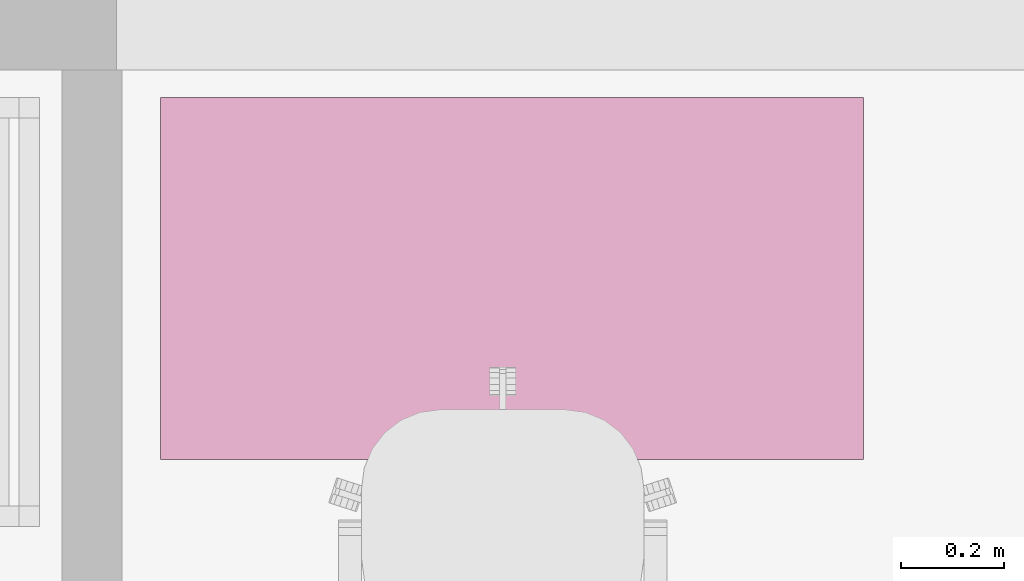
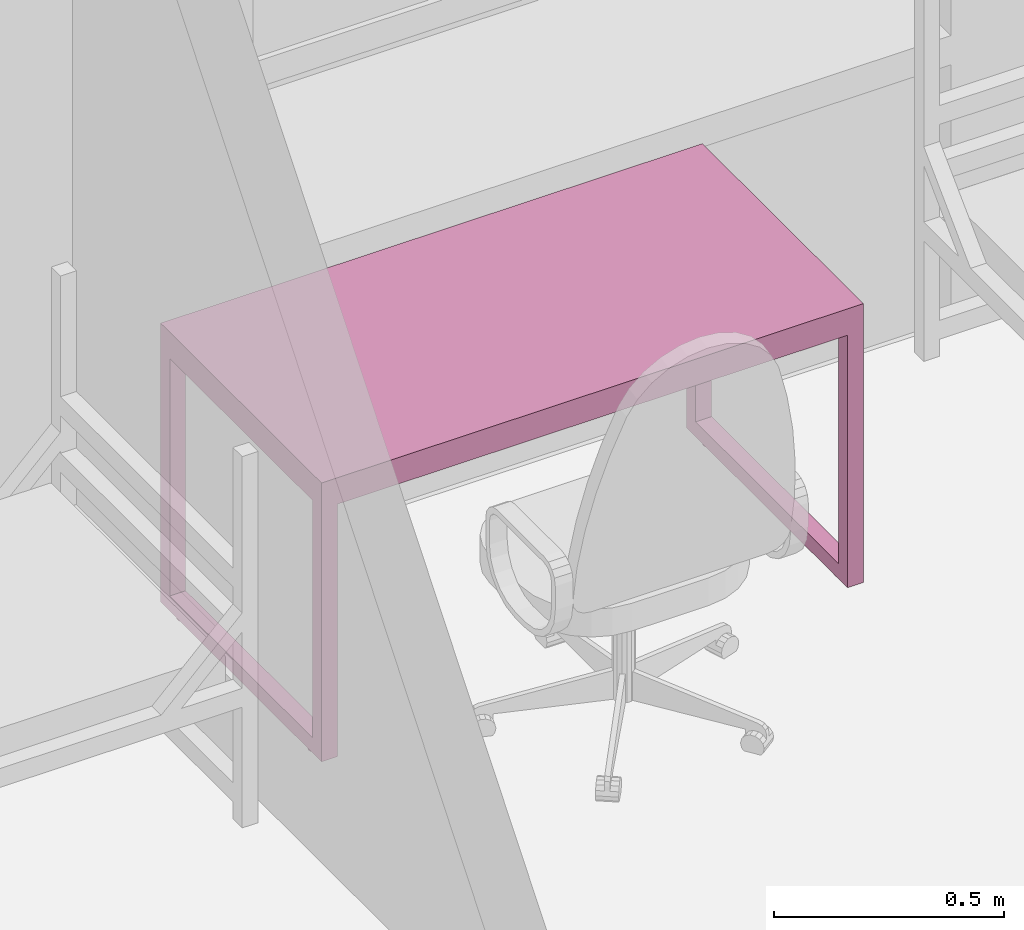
# One storey, part 45 of 46: 1 furnishing.
"""IFC2X3 building model written with IfcOpenShell, lengths in millimetres."""

from ifc_helpers import new_model, entity, si_unit, converted_unit, derived_unit, direction, frame, origin, place, context, subcontext, project, spatial, faceted_brep, source, transform, mapped, material, material_list, type_object, type_shapes, element, save


model = new_model("IFC2X3")

# Units and contexts
model_context = context("Model", 3, precision=0.01, world=origin(), true_north=direction((6.12303176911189e-17, 1.0)))
body_context = subcontext(model_context, "Body", "Model", "MODEL_VIEW")
ifc_project = project(units=[si_unit("LENGTHUNIT", "METRE", prefix="MILLI"), si_unit("AREAUNIT", "SQUARE_METRE"), si_unit("VOLUMEUNIT", "CUBIC_METRE"), converted_unit("PLANEANGLEUNIT", "DEGREE", entity("IfcRatioMeasure", 0.0174532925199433), si_unit("PLANEANGLEUNIT", "RADIAN"), dimensions=[0, 0, 0, 0, 0, 0, 0]), si_unit("MASSUNIT", "GRAM", prefix="KILO"), derived_unit("MASSDENSITYUNIT", [(si_unit("MASSUNIT", "GRAM", prefix="KILO"), 1), (si_unit("LENGTHUNIT", "METRE"), -3)]), si_unit("TIMEUNIT", "SECOND"), si_unit("FREQUENCYUNIT", "HERTZ"), si_unit("THERMODYNAMICTEMPERATUREUNIT", "DEGREE_CELSIUS"), derived_unit("THERMALTRANSMITTANCEUNIT", [(si_unit("MASSUNIT", "GRAM", prefix="KILO"), 1), (si_unit("THERMODYNAMICTEMPERATUREUNIT", "KELVIN"), -1), (si_unit("TIMEUNIT", "SECOND"), -3)]), derived_unit("VOLUMETRICFLOWRATEUNIT", [(si_unit("LENGTHUNIT", "METRE"), 3), (si_unit("TIMEUNIT", "SECOND"), -1)]), si_unit("ELECTRICCURRENTUNIT", "AMPERE"), si_unit("ELECTRICVOLTAGEUNIT", "VOLT"), si_unit("POWERUNIT", "WATT"), si_unit("FORCEUNIT", "NEWTON", prefix="KILO"), si_unit("ILLUMINANCEUNIT", "LUX"), si_unit("LUMINOUSFLUXUNIT", "LUMEN"), si_unit("LUMINOUSINTENSITYUNIT", "CANDELA"), derived_unit("USERDEFINED", [(si_unit("MASSUNIT", "GRAM", prefix="KILO"), -1), (si_unit("LENGTHUNIT", "METRE"), -2), (si_unit("TIMEUNIT", "SECOND"), 3), (si_unit("LUMINOUSFLUXUNIT", "LUMEN"), 1)]), derived_unit("LINEARVELOCITYUNIT", [(si_unit("LENGTHUNIT", "METRE"), 1), (si_unit("TIMEUNIT", "SECOND"), -1)]), si_unit("PRESSUREUNIT", "PASCAL"), derived_unit("USERDEFINED", [(si_unit("LENGTHUNIT", "METRE"), -2), (si_unit("MASSUNIT", "GRAM", prefix="KILO"), 1), (si_unit("TIMEUNIT", "SECOND"), -2)]), derived_unit("LINEARFORCEUNIT", [(si_unit("MASSUNIT", "GRAM", prefix="KILO"), 1), (si_unit("LENGTHUNIT", "METRE"), 1), (si_unit("TIMEUNIT", "SECOND"), -2), (si_unit("LENGTHUNIT", "METRE"), -1)]), derived_unit("PLANARFORCEUNIT", [(si_unit("MASSUNIT", "GRAM", prefix="KILO"), 1), (si_unit("LENGTHUNIT", "METRE"), 1), (si_unit("TIMEUNIT", "SECOND"), -2), (si_unit("LENGTHUNIT", "METRE"), -2)])], contexts=[model_context])

# Site, building, storey, space
site_placement = place(None, origin())
site = spatial("IfcSite", under=ifc_project, at=site_placement, Name="Default", CompositionType="ELEMENT")
building_placement = place(site_placement, origin())
building = spatial("IfcBuilding", under=site, at=building_placement, Name="SMA ARH", CompositionType="ELEMENT")
storey_placement = place(building_placement, frame((0.0, 0.0, 9910.0)))
storey = spatial("IfcBuildingStorey", under=building, at=storey_placement, Name="4 Korrus", CompositionType="ELEMENT", Elevation=9909.9999999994)
space_placement = place(storey_placement, origin())
space = spatial("IfcSpace", under=storey, at=space_placement, Name="4-31", CompositionType="ELEMENT", InteriorOrExteriorSpace="INTERNAL")

# Furnishing
ifc_material = material(Name="<Unnamed>")
ifc_material_list = material_list([ifc_material, ifc_material])
furniture_type = type_object("IfcFurnitureType", Name="kirjutuslaud 1360x700mm:kirjutuslaud 1360x700mm", material=ifc_material_list)
shared_shape = source(origin(), body_context, "Body", "Brep", [
    faceted_brep([(680.0, 350.0, 720.0), (680.0, 350.0, 750.0), (680.0, -350.0, 750.0), (680.0, -350.0, 720.0), (-680.0, 350.0, 720.0), (-680.0, -350.0, 720.0), (-680.0, -350.0, 750.0), (-680.0, 350.0, 750.0)], [[[0, 1, 2, 3]], [[4, 5, 6, 7]], [[3, 5, 4, 0]], [[2, 6, 5, 3]], [[1, 7, 6, 2]], [[0, 4, 7, 1]]]),
    faceted_brep([(-640.0, 310.0, 680.0), (-640.0, 310.0, 720.0), (-640.0, -310.0, 720.0), (-640.0, -310.0, 680.0), (-680.0, 350.0, 720.0), (-680.0, 350.0, 10.0), (-680.0, -350.0, 10.0), (-680.0, -350.0, 720.0), (-680.0, -310.0, 680.0), (-680.0, -310.0, 50.0), (-680.0, 310.0, 50.0), (-680.0, 310.0, 680.0), (680.0, 350.0, 720.0), (680.0, 350.0, 10.0), (640.0, 350.0, 10.0), (640.0, 350.0, 680.0), (-640.0, 350.0, 680.0), (-640.0, 350.0, 10.0), (-640.0, -350.0, 10.0), (-640.0, -350.0, 680.0), (640.0, -350.0, 680.0), (640.0, -350.0, 10.0), (680.0, -350.0, 10.0), (680.0, -350.0, 720.0), (640.0, 310.0, 720.0), (640.0, -310.0, 720.0), (-640.0, -310.0, 50.0), (-640.0, 310.0, 50.0), (640.0, -310.0, 680.0), (640.0, 310.0, 680.0), (680.0, -310.0, 680.0), (680.0, 310.0, 680.0), (680.0, 310.0, 50.0), (680.0, -310.0, 50.0), (640.0, -310.0, 50.0), (640.0, 310.0, 50.0)], [[[0, 1, 2, 3]], [[4, 5, 6, 7], [8, 9, 10, 11]], [[4, 12, 13, 14, 15, 16, 17, 5]], [[18, 6, 5, 17]], [[6, 18, 19, 20, 21, 22, 23, 7]], [[2, 1, 24, 25], [23, 12, 4, 7]], [[26, 9, 8, 3]], [[27, 10, 9, 26]], [[0, 11, 10, 27]], [[3, 8, 11, 0]], [[28, 20, 19, 3]], [[25, 28, 3, 2]], [[1, 0, 29, 24]], [[12, 23, 22, 13], [30, 31, 32, 33]], [[21, 20, 28, 34, 35, 29, 15, 14]], [[22, 21, 14, 13]], [[33, 34, 28, 30]], [[32, 35, 34, 33]], [[31, 29, 35, 32]], [[30, 28, 29, 31]], [[28, 25, 24, 29]], [[15, 29, 0, 16]], [[17, 16, 0, 27, 26, 3, 19, 18]]], outer=[[True], [True, False], [True], [True], [True], [False, True], [True], [True], [True], [True], [True], [True], [True], [True, False], [True], [True], [True], [True], [True], [True], [True], [True], [True]]),
    faceted_brep([(-655.964885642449, 270.466136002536, 0.0), (-659.847171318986, 269.955023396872, 0.0), (-663.729456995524, 270.466136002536, 0.0), (-667.347171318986, 271.964642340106, 0.0), (-670.453773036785, 274.348421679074, 0.0), (-672.837552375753, 277.455023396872, 0.0), (-674.336058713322, 281.072737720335, 0.0), (-674.847171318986, 284.955023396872, 0.0), (-674.336058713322, 288.83730907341, 0.0), (-672.837552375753, 292.455023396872, 0.0), (-670.453773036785, 295.561625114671, 0.0), (-667.347171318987, 297.945404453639, 0.0), (-663.729456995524, 299.443910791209, 0.0), (-659.847171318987, 299.955023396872, 0.0), (-655.964885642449, 299.443910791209, 0.0), (-652.347171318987, 297.945404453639, 0.0), (-649.240569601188, 295.561625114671, 0.0), (-646.85679026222, 292.455023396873, 0.0), (-645.35828392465, 288.83730907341, 0.0), (-644.847171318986, 284.955023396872, 0.0), (-645.35828392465, 281.072737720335, 0.0), (-646.85679026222, 277.455023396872, 0.0), (-649.240569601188, 274.348421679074, 0.0), (-652.347171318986, 271.964642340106, 0.0), (-649.240569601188, 295.561625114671, 10.0), (-652.347171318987, 297.945404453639, 10.0), (-655.964885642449, 299.443910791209, 10.0), (-659.847171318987, 299.955023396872, 10.0), (-663.729456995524, 299.443910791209, 10.0), (-667.347171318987, 297.945404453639, 10.0), (-670.453773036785, 295.561625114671, 10.0), (-672.837552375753, 292.455023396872, 10.0), (-674.336058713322, 288.83730907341, 10.0), (-674.847171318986, 284.955023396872, 10.0), (-674.336058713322, 281.072737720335, 10.0), (-672.837552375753, 277.455023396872, 10.0), (-670.453773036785, 274.348421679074, 10.0), (-667.347171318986, 271.964642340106, 10.0), (-663.729456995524, 270.466136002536, 10.0), (-659.847171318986, 269.955023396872, 10.0), (-655.964885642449, 270.466136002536, 10.0), (-652.347171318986, 271.964642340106, 10.0), (-649.240569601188, 274.348421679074, 10.0), (-646.85679026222, 277.455023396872, 10.0), (-645.35828392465, 281.072737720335, 10.0), (-644.847171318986, 284.955023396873, 10.0), (-645.35828392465, 288.83730907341, 10.0), (-646.85679026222, 292.455023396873, 10.0)], [[[0, 1, 2, 3, 4, 5, 6, 7, 8, 9, 10, 11, 12, 13, 14, 15, 16, 17, 18, 19, 20, 21, 22, 23]], [[24, 25, 26, 27, 28, 29, 30, 31, 32, 33, 34, 35, 36, 37, 38, 39, 40, 41, 42, 43, 44, 45, 46, 47]], [[7, 33, 32, 8]], [[8, 32, 31, 9]], [[11, 10, 30, 29]], [[30, 10, 9, 31]], [[12, 11, 29, 28]], [[12, 28, 27, 13]], [[13, 27, 26, 14]], [[14, 26, 25, 15]], [[17, 16, 24, 47]], [[24, 16, 15, 25]], [[18, 17, 47, 46]], [[18, 46, 45, 19]], [[19, 45, 44, 20]], [[20, 44, 43, 21]], [[23, 22, 42, 41]], [[42, 22, 21, 43]], [[0, 23, 41, 40]], [[0, 40, 39, 1]], [[1, 39, 38, 2]], [[2, 38, 37, 3]], [[5, 4, 36, 35]], [[36, 4, 3, 37]], [[6, 5, 35, 34]], [[6, 34, 33, 7]]]),
    faceted_brep([(-649.240569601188, -274.348421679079, 10.0), (-652.347171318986, -271.964642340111, 10.0), (-655.964885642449, -270.466136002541, 10.0), (-659.847171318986, -269.955023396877, 10.0), (-663.729456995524, -270.466136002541, 10.0), (-667.347171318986, -271.964642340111, 10.0), (-670.453773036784, -274.348421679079, 10.0), (-672.837552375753, -277.455023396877, 10.0), (-674.336058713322, -281.07273772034, 10.0), (-674.847171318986, -284.955023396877, 10.0), (-674.336058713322, -288.837309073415, 10.0), (-672.837552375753, -292.455023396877, 10.0), (-670.453773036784, -295.561625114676, 10.0), (-667.347171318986, -297.945404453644, 10.0), (-663.729456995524, -299.443910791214, 10.0), (-659.847171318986, -299.955023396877, 10.0), (-655.964885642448, -299.443910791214, 10.0), (-652.347171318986, -297.945404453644, 10.0), (-649.240569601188, -295.561625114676, 10.0), (-646.85679026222, -292.455023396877, 10.0), (-645.35828392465, -288.837309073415, 10.0), (-644.847171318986, -284.955023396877, 10.0), (-645.35828392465, -281.07273772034, 10.0), (-646.85679026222, -277.455023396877, 10.0), (-659.847171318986, -299.955023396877, 0.0), (-663.729456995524, -299.443910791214, 0.0), (-667.347171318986, -297.945404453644, 0.0), (-670.453773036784, -295.561625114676, 0.0), (-672.837552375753, -292.455023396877, 0.0), (-674.336058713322, -288.837309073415, 0.0), (-674.847171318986, -284.955023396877, 0.0), (-674.336058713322, -281.07273772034, 0.0), (-672.837552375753, -277.455023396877, 0.0), (-670.453773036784, -274.348421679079, 0.0), (-667.347171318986, -271.964642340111, 0.0), (-663.729456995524, -270.466136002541, 0.0), (-659.847171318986, -269.955023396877, 0.0), (-655.964885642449, -270.466136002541, 0.0), (-652.347171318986, -271.964642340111, 0.0), (-649.240569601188, -274.348421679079, 0.0), (-646.85679026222, -277.455023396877, 0.0), (-645.35828392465, -281.07273772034, 0.0), (-644.847171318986, -284.955023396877, 0.0), (-645.35828392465, -288.837309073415, 0.0), (-646.85679026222, -292.455023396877, 0.0), (-649.240569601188, -295.561625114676, 0.0), (-652.347171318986, -297.945404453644, 0.0), (-655.964885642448, -299.443910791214, 0.0)], [[[0, 1, 2, 3, 4, 5, 6, 7, 8, 9, 10, 11, 12, 13, 14, 15, 16, 17, 18, 19, 20, 21, 22, 23]], [[24, 25, 26, 27, 28, 29, 30, 31, 32, 33, 34, 35, 36, 37, 38, 39, 40, 41, 42, 43, 44, 45, 46, 47]], [[30, 9, 8, 31]], [[31, 8, 7, 32]], [[34, 33, 6, 5]], [[6, 33, 32, 7]], [[35, 34, 5, 4]], [[35, 4, 3, 36]], [[36, 3, 2, 37]], [[37, 2, 1, 38]], [[40, 39, 0, 23]], [[0, 39, 38, 1]], [[41, 40, 23, 22]], [[41, 22, 21, 42]], [[42, 21, 20, 43]], [[43, 20, 19, 44]], [[46, 45, 18, 17]], [[18, 45, 44, 19]], [[47, 46, 17, 16]], [[47, 16, 15, 24]], [[24, 15, 14, 25]], [[25, 14, 13, 26]], [[28, 27, 12, 11]], [[12, 27, 26, 13]], [[29, 28, 11, 10]], [[29, 10, 9, 30]]]),
    faceted_brep([(664.035114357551, 270.466136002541, 0.0), (660.152828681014, 269.955023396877, 0.0), (656.270543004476, 270.466136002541, 0.0), (652.652828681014, 271.96464234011, 0.0), (649.546226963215, 274.348421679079, 0.0), (647.162447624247, 277.455023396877, 0.0), (645.663941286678, 281.072737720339, 0.0), (645.152828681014, 284.955023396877, 0.0), (645.663941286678, 288.837309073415, 0.0), (647.162447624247, 292.455023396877, 0.0), (649.546226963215, 295.561625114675, 0.0), (652.652828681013, 297.945404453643, 0.0), (656.270543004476, 299.443910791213, 0.0), (660.152828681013, 299.955023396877, 0.0), (664.035114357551, 299.443910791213, 0.0), (667.652828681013, 297.945404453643, 0.0), (670.759430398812, 295.561625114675, 0.0), (673.14320973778, 292.455023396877, 0.0), (674.64171607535, 288.837309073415, 0.0), (675.152828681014, 284.955023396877, 0.0), (674.64171607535, 281.072737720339, 0.0), (673.14320973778, 277.455023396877, 0.0), (670.759430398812, 274.348421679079, 0.0), (667.652828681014, 271.96464234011, 0.0), (670.759430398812, 295.561625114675, 10.0), (667.652828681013, 297.945404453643, 10.0), (664.035114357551, 299.443910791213, 10.0), (660.152828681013, 299.955023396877, 10.0), (656.270543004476, 299.443910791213, 10.0), (652.652828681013, 297.945404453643, 10.0), (649.546226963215, 295.561625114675, 10.0), (647.162447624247, 292.455023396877, 10.0), (645.663941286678, 288.837309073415, 10.0), (645.152828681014, 284.955023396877, 10.0), (645.663941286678, 281.072737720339, 10.0), (647.162447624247, 277.455023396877, 10.0), (649.546226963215, 274.348421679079, 10.0), (652.652828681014, 271.96464234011, 10.0), (656.270543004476, 270.466136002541, 10.0), (660.152828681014, 269.955023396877, 10.0), (664.035114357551, 270.466136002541, 10.0), (667.652828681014, 271.96464234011, 10.0), (670.759430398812, 274.348421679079, 10.0), (673.14320973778, 277.455023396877, 10.0), (674.64171607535, 281.072737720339, 10.0), (675.152828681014, 284.955023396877, 10.0), (674.64171607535, 288.837309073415, 10.0), (673.14320973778, 292.455023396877, 10.0)], [[[0, 1, 2, 3, 4, 5, 6, 7, 8, 9, 10, 11, 12, 13, 14, 15, 16, 17, 18, 19, 20, 21, 22, 23]], [[24, 25, 26, 27, 28, 29, 30, 31, 32, 33, 34, 35, 36, 37, 38, 39, 40, 41, 42, 43, 44, 45, 46, 47]], [[7, 33, 32, 8]], [[8, 32, 31, 9]], [[11, 10, 30, 29]], [[30, 10, 9, 31]], [[12, 11, 29, 28]], [[12, 28, 27, 13]], [[13, 27, 26, 14]], [[14, 26, 25, 15]], [[17, 16, 24, 47]], [[24, 16, 15, 25]], [[18, 17, 47, 46]], [[18, 46, 45, 19]], [[19, 45, 44, 20]], [[20, 44, 43, 21]], [[23, 22, 42, 41]], [[42, 22, 21, 43]], [[0, 23, 41, 40]], [[0, 40, 39, 1]], [[1, 39, 38, 2]], [[2, 38, 37, 3]], [[5, 4, 36, 35]], [[36, 4, 3, 37]], [[6, 5, 35, 34]], [[6, 34, 33, 7]]]),
    faceted_brep([(670.759430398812, -274.348421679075, 10.0), (667.652828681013, -271.964642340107, 10.0), (664.035114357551, -270.466136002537, 10.0), (660.152828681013, -269.955023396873, 10.0), (656.270543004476, -270.466136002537, 10.0), (652.652828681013, -271.964642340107, 10.0), (649.546226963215, -274.348421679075, 10.0), (647.162447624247, -277.455023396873, 10.0), (645.663941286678, -281.072737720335, 10.0), (645.152828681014, -284.955023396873, 10.0), (645.663941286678, -288.837309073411, 10.0), (647.162447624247, -292.455023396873, 10.0), (649.546226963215, -295.561625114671, 10.0), (652.652828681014, -297.94540445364, 10.0), (656.270543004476, -299.443910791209, 10.0), (660.152828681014, -299.955023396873, 10.0), (664.035114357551, -299.443910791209, 10.0), (667.652828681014, -297.94540445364, 10.0), (670.759430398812, -295.561625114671, 10.0), (673.14320973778, -292.455023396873, 10.0), (674.64171607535, -288.837309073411, 10.0), (675.152828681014, -284.955023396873, 10.0), (674.64171607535, -281.072737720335, 10.0), (673.14320973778, -277.455023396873, 10.0), (660.152828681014, -299.955023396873, 0.0), (656.270543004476, -299.443910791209, 0.0), (652.652828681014, -297.94540445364, 0.0), (649.546226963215, -295.561625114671, 0.0), (647.162447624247, -292.455023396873, 0.0), (645.663941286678, -288.837309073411, 0.0), (645.152828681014, -284.955023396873, 0.0), (645.663941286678, -281.072737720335, 0.0), (647.162447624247, -277.455023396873, 0.0), (649.546226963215, -274.348421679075, 0.0), (652.652828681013, -271.964642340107, 0.0), (656.270543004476, -270.466136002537, 0.0), (660.152828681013, -269.955023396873, 0.0), (664.035114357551, -270.466136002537, 0.0), (667.652828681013, -271.964642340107, 0.0), (670.759430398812, -274.348421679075, 0.0), (673.14320973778, -277.455023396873, 0.0), (674.64171607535, -281.072737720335, 0.0), (675.152828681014, -284.955023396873, 0.0), (674.64171607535, -288.837309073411, 0.0), (673.14320973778, -292.455023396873, 0.0), (670.759430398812, -295.561625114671, 0.0), (667.652828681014, -297.94540445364, 0.0), (664.035114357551, -299.443910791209, 0.0)], [[[0, 1, 2, 3, 4, 5, 6, 7, 8, 9, 10, 11, 12, 13, 14, 15, 16, 17, 18, 19, 20, 21, 22, 23]], [[24, 25, 26, 27, 28, 29, 30, 31, 32, 33, 34, 35, 36, 37, 38, 39, 40, 41, 42, 43, 44, 45, 46, 47]], [[30, 9, 8, 31]], [[31, 8, 7, 32]], [[34, 33, 6, 5]], [[6, 33, 32, 7]], [[35, 34, 5, 4]], [[35, 4, 3, 36]], [[36, 3, 2, 37]], [[37, 2, 1, 38]], [[40, 39, 0, 23]], [[0, 39, 38, 1]], [[41, 40, 23, 22]], [[41, 22, 21, 42]], [[42, 21, 20, 43]], [[43, 20, 19, 44]], [[46, 45, 18, 17]], [[18, 45, 44, 19]], [[47, 46, 17, 16]], [[47, 16, 15, 24]], [[24, 15, 14, 25]], [[25, 14, 13, 26]], [[28, 27, 12, 11]], [[12, 27, 26, 13]], [[29, 28, 11, 10]], [[29, 10, 9, 30]]]),
])
type_shapes(furniture_type, [shared_shape])
furnishing_placement = place(space_placement, frame((32480.3924632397, 12096.686384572, 0.0), z_axis=(0.0, 0.0, 1.0), x_axis=(-1.0, 0.0, 0.0)))
element("IfcFurnishingElement", 1, at=furnishing_placement, inside=space, type_object=furniture_type, Name="kirjutuslaud 1360x700mm:kirjutuslaud 1360x700mm", ObjectType="kirjutuslaud 1360x700mm:kirjutuslaud 1360x700mm", context=body_context, shape_type="MappedRepresentation", body=[
    mapped(shared_shape, transform((0.0, 0.0, 0.0), scale=1.0)),
])

save(model, "model.ifc")
